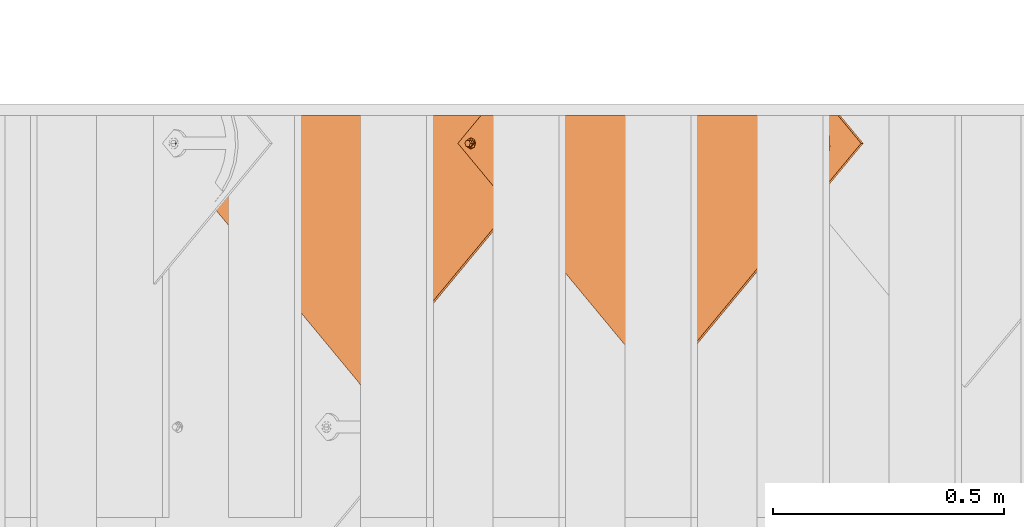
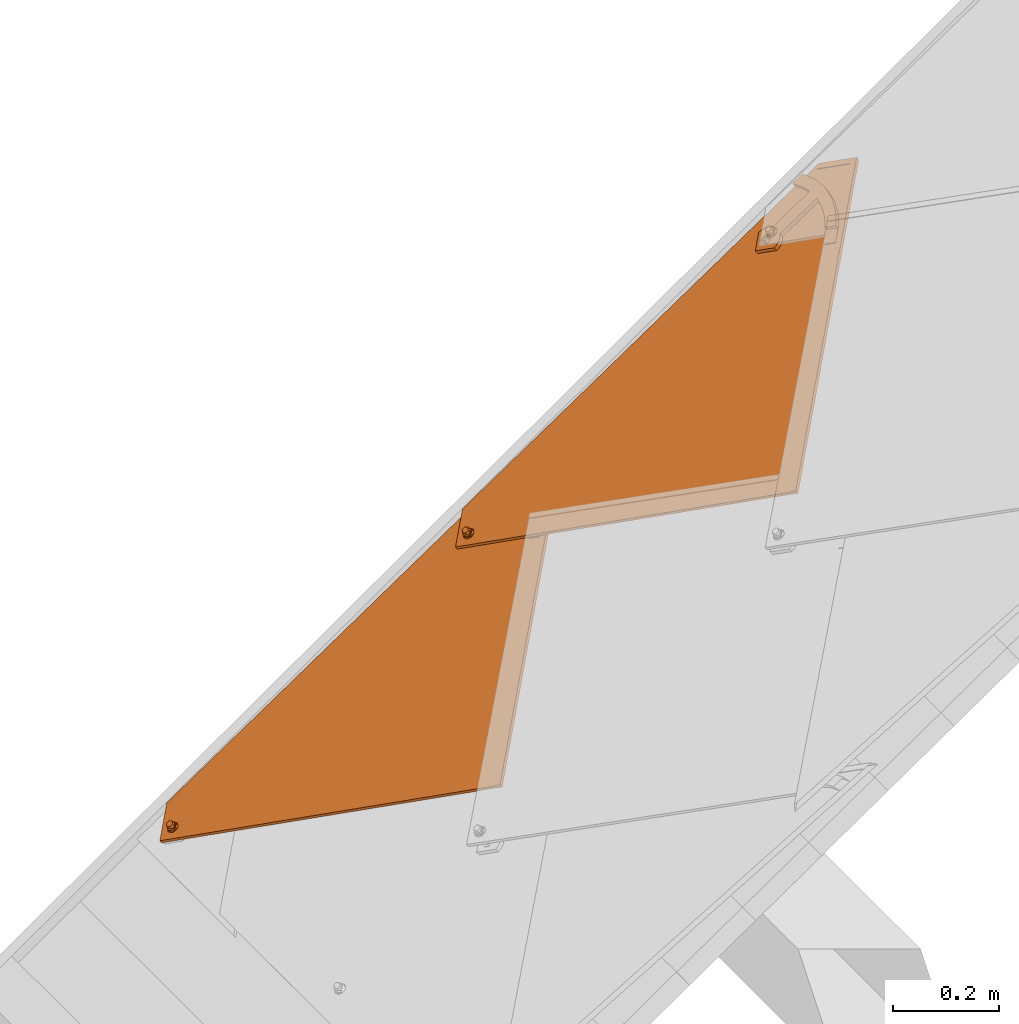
# One storey, part 83 of 133: 2 proxies.
"""IFC2X3 building model written with IfcOpenShell, lengths in millimetres."""

from ifc_helpers import new_model, entity, si_unit, converted_unit, derived_unit, direction, frame, origin, place, context, subcontext, project, spatial, faceted_brep, source, transform, mapped, material, material_list, type_object, type_shapes, element, save


model = new_model("IFC2X3")

# Units and contexts
model_context = context("Model", 3, precision=0.01, world=origin(), true_north=direction((6.12303176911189e-17, 1.0)))
body_context = subcontext(model_context, "Body", "Model", "MODEL_VIEW")
ifc_project = project(units=[si_unit("LENGTHUNIT", "METRE", prefix="MILLI"), si_unit("AREAUNIT", "SQUARE_METRE"), si_unit("VOLUMEUNIT", "CUBIC_METRE"), converted_unit("PLANEANGLEUNIT", "DEGREE", entity("IfcRatioMeasure", 0.0174532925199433), si_unit("PLANEANGLEUNIT", "RADIAN"), dimensions=[0, 0, 0, 0, 0, 0, 0]), si_unit("MASSUNIT", "GRAM", prefix="KILO"), derived_unit("MASSDENSITYUNIT", [(si_unit("MASSUNIT", "GRAM", prefix="KILO"), 1), (si_unit("LENGTHUNIT", "METRE"), -3)]), si_unit("TIMEUNIT", "SECOND"), si_unit("FREQUENCYUNIT", "HERTZ"), si_unit("THERMODYNAMICTEMPERATUREUNIT", "DEGREE_CELSIUS"), derived_unit("THERMALTRANSMITTANCEUNIT", [(si_unit("MASSUNIT", "GRAM", prefix="KILO"), 1), (si_unit("THERMODYNAMICTEMPERATUREUNIT", "KELVIN"), -1), (si_unit("TIMEUNIT", "SECOND"), -3)]), derived_unit("VOLUMETRICFLOWRATEUNIT", [(si_unit("LENGTHUNIT", "METRE"), 3), (si_unit("TIMEUNIT", "SECOND"), -1)]), si_unit("ELECTRICCURRENTUNIT", "AMPERE"), si_unit("ELECTRICVOLTAGEUNIT", "VOLT"), si_unit("POWERUNIT", "WATT"), si_unit("FORCEUNIT", "NEWTON", prefix="KILO"), si_unit("ILLUMINANCEUNIT", "LUX"), si_unit("LUMINOUSFLUXUNIT", "LUMEN"), si_unit("LUMINOUSINTENSITYUNIT", "CANDELA"), derived_unit("USERDEFINED", [(si_unit("MASSUNIT", "GRAM", prefix="KILO"), -1), (si_unit("LENGTHUNIT", "METRE"), -2), (si_unit("TIMEUNIT", "SECOND"), 3), (si_unit("LUMINOUSFLUXUNIT", "LUMEN"), 1)]), derived_unit("LINEARVELOCITYUNIT", [(si_unit("LENGTHUNIT", "METRE"), 1), (si_unit("TIMEUNIT", "SECOND"), -1)]), si_unit("PRESSUREUNIT", "PASCAL"), derived_unit("USERDEFINED", [(si_unit("LENGTHUNIT", "METRE"), -2), (si_unit("MASSUNIT", "GRAM", prefix="KILO"), 1), (si_unit("TIMEUNIT", "SECOND"), -2)])], contexts=[model_context])

# Site, building, storey
site_placement = place(None, origin())
site = spatial("IfcSite", under=ifc_project, at=site_placement, Name="Default", CompositionType="ELEMENT")
building_placement = place(site_placement, origin())
building = spatial("IfcBuilding", under=site, at=building_placement, CompositionType="ELEMENT")
storey_placement = place(building_placement, origin())
storey = spatial("IfcBuildingStorey", under=building, at=storey_placement, Name="Level 1", CompositionType="ELEMENT", Elevation=0.0)

# Proxies
ifc_material_1 = material(Name="Rubber - Sunstyle - Black")
ifc_material_2 = material(Name="Glass - Sunstyle - Tainted Black")
ifc_material_list_1 = material_list([ifc_material_1, ifc_material_2])
ifc_material_list_2 = material_list([ifc_material_1, ifc_material_2])
building_element_proxy_type = type_object("IfcBuildingElementProxyType", Name="Shingle Left - Black", PredefinedType="NOTDEFINED", material=ifc_material_list_2)
shared_shape = source(origin(), body_context, "Body", "Brep", [
    faceted_brep([(0.0, -484.792260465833, 4.00636906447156), (-5.77420283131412, -488.125530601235, 4.06219304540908), (-5.77420283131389, -487.757221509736, 26.0540623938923), (0.0, -484.423951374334, 25.9982384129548), (-5.77420283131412, -494.792070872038, 4.17384100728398), (-5.7742028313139, -494.42376178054, 26.1657103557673), (0.0, -498.12534100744, 4.22966498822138), (0.0, -497.757031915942, 26.2215343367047), (5.77420283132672, -494.792070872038, 4.17384100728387), (5.77420283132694, -494.42376178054, 26.1657103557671), (5.77420283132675, -488.125530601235, 4.06219304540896), (5.77420283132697, -487.757221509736, 26.0540623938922), (-8.60370416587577, -499.692989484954, 26.2539568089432), (0.0, -503.256260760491, 26.3136327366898), (-12.1674751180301, -491.090491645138, 26.1098863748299), (-8.60370416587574, -482.487993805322, 25.9658159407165), (0.0, -478.924722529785, 25.9061400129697), (8.60370416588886, -482.487993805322, 25.9658159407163), (12.1674751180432, -491.090491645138, 26.1098863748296), (8.60370416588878, -499.692989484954, 26.253956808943), (-11.324244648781, -488.795414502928, 28.4227283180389), (-9.75647455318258, -491.019476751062, 30.3502110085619), (0.0, -483.706401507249, 30.9829114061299), (0.0, -482.465903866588, 30.4025647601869), (0.0, -480.308353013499, 29.3931896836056), (0.0, -502.700216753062, 27.5886907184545), (0.0, -501.756640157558, 29.7523951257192), (0.0, -498.307264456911, 31.2274395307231), (0.0, -479.437758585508, 27.1991024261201), (-6.32324569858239, -494.657048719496, 31.1663074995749), (-6.32324569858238, -487.356617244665, 31.0440434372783), (11.3242446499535, -493.306834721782, 28.498283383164), (9.84888015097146, -492.093883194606, 30.2713428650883), (6.32324569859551, -487.356617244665, 31.0440434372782), (6.32324569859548, -494.657048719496, 31.1663074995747), (-6.32324569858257, -494.523020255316, 39.1691956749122), (0.0, -498.173235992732, 39.2303277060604), (0.0, -490.8728045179, 39.1080636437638), (-6.32324569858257, -487.222588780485, 39.0469316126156), (6.32324569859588, -494.523020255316, 39.1691956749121), (6.32324569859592, -487.222588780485, 39.0469316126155), (0.0, -483.572373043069, 38.9857995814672), (0.0, -491.458800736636, 4.11801702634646)], [[[0, 1, 2, 3]], [[1, 4, 5, 2]], [[4, 6, 7, 5]], [[6, 8, 9, 7]], [[8, 10, 11, 9]], [[10, 0, 3, 11]], [[12, 7, 13]], [[7, 12, 5]], [[14, 5, 12]], [[5, 14, 2]], [[15, 2, 14]], [[3, 2, 15]], [[15, 16, 3]], [[16, 17, 3]], [[11, 3, 17]], [[11, 17, 18]], [[9, 11, 18]], [[18, 19, 9]], [[7, 9, 19]], [[19, 13, 7]], [[20, 14, 12]], [[21, 22, 23, 24]], [[24, 20, 21]], [[25, 20, 12]], [[26, 27, 21]], [[15, 14, 20]], [[12, 13, 25]], [[20, 28, 15]], [[28, 20, 24]], [[21, 27, 29]], [[21, 29, 30]], [[26, 21, 20]], [[20, 25, 26]], [[15, 28, 16]], [[21, 30, 22]], [[31, 18, 17]], [[28, 31, 17]], [[32, 27, 26]], [[26, 31, 32]], [[26, 25, 31]], [[25, 19, 31]], [[17, 16, 28]], [[31, 19, 18]], [[24, 31, 28]], [[33, 34, 32]], [[23, 22, 33]], [[24, 32, 31]], [[27, 32, 34]], [[32, 23, 33]], [[19, 25, 13]], [[32, 24, 23]], [[35, 36, 37]], [[37, 38, 35]], [[36, 39, 37]], [[40, 37, 39]], [[37, 40, 41]], [[37, 41, 38]], [[42, 6, 4]], [[4, 1, 42]], [[1, 0, 42]], [[42, 8, 6]], [[0, 10, 42]], [[8, 42, 10]], [[22, 30, 38, 41]], [[30, 29, 35, 38]], [[29, 27, 36, 35]], [[27, 34, 39, 36]], [[34, 33, 40, 39]], [[33, 22, 41, 40]]]),
    faceted_brep([(0.0, 284.339364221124, 20.2838091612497), (0.0, 288.838732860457, 20.2084559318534), (-8.60370416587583, 287.902635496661, 20.224133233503), (8.60370416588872, 287.902635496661, 20.2241332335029), (6.64022859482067, 292.671933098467, 20.1442593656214), (12.1674751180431, 296.505133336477, 20.0800627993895), (6.64022859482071, 300.338333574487, 20.0158662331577), (8.6037041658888, 305.107631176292, 19.9359923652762), (0.0, 304.171533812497, 19.9516696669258), (0.0, 308.670902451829, 19.8763164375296), (-8.60370416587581, 305.107631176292, 19.9359923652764), (-6.64022859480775, 300.338333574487, 20.0158662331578), (-12.1674751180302, 296.505133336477, 20.0800627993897), (-6.64022859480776, 292.671933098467, 20.1442593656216), (-6.64022823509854, 300.070410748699, 4.01810959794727), (0.0, 303.90361077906, 3.95391303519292), (-6.64022823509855, 292.404010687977, 4.14650272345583), (0.0, 288.570810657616, 4.21069928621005), (6.64022823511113, 292.404010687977, 4.1465027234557), (6.64022823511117, 300.070410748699, 4.01810959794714), (-8.603704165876, 287.634712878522, 4.22637659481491), (0.0, 284.071441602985, 4.28605252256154), (-12.1674751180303, 296.237210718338, 4.08230616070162), (-8.60370416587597, 304.839708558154, 3.93823572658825), (0.0, 308.402979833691, 3.87855979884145), (8.60370416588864, 304.839708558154, 3.93823572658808), (12.1674751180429, 296.237210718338, 4.08230616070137), (8.60370416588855, 287.634712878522, 4.22637659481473)], [[[0, 1, 2]], [[1, 0, 3]], [[3, 4, 1]], [[4, 3, 5]], [[6, 4, 5]], [[5, 7, 6]], [[7, 8, 6]], [[8, 7, 9]], [[8, 9, 10]], [[10, 11, 8]], [[12, 11, 10]], [[2, 13, 12]], [[12, 13, 11]], [[13, 2, 1]], [[8, 11, 14, 15]], [[11, 13, 16, 14]], [[13, 1, 17, 16]], [[1, 4, 18, 17]], [[4, 6, 19, 18]], [[6, 8, 15, 19]], [[20, 17, 21]], [[17, 20, 16]], [[22, 16, 20]], [[14, 16, 22]], [[23, 14, 22]], [[15, 14, 23]], [[23, 24, 15]], [[24, 25, 15]], [[19, 15, 25]], [[19, 25, 26]], [[26, 18, 19]], [[26, 27, 18]], [[17, 18, 27]], [[27, 21, 17]], [[24, 23, 10, 9]], [[10, 23, 22, 12]], [[20, 21, 0, 2]], [[20, 2, 12, 22]], [[21, 27, 3, 0]], [[3, 27, 26, 5]], [[25, 24, 9, 7]], [[25, 7, 5, 26]]]),
    faceted_brep([(518.309865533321, -8.21171787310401, 16.4411500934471), (526.794551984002, 0.272968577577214, 16.299052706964), (526.794551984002, 0.298086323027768, 17.798842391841), (518.309865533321, -8.18660012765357, 17.9409397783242), (0.0, 509.952813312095, 7.76318349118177), (-51.6190674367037, 458.348219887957, 8.62743202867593), (-60.1037538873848, 466.832906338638, 8.48533464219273), (0.0, 526.919807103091, 7.47902856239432), (0.0, 526.944924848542, 8.97881824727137), (-60.1037538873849, 466.858024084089, 9.98512432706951), (-51.6190674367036, 458.373337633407, 10.1272217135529), (0.0, 509.977931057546, 9.26297317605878)], [[[0, 1, 2, 3]], [[1, 0, 4, 5, 6, 7]], [[2, 1, 7, 8]], [[3, 2, 8, 9, 10, 11]], [[0, 3, 11, 4]], [[5, 10, 9, 6]], [[8, 7, 6, 9]], [[4, 11, 10, 5]]]),
    faceted_brep([(3.08877637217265, 308.328619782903, 11.1398870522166), (0.0, 526.91980710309, 7.47902856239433), (-60.1037538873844, 466.832906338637, 8.48533464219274), (5.98294783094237, 307.129982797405, 11.1599612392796), (-0.0170521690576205, 308.737452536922, 11.133040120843), (8.46822920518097, 305.223226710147, 11.1918946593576), (10.3752526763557, 302.738293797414, 11.2335111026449), (11.5740577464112, 299.844528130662, 11.2819744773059), (526.794551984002, 0.272968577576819, 16.299052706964), (11.9829478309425, 296.739135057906, 11.3339820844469), (11.5740577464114, 293.63374198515, 11.3859896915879), (10.3752526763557, 290.739976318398, 11.4344530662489), (8.46822920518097, 288.255043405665, 11.4760695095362), (5.9829478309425, 286.348287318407, 11.5080029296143), (3.08877637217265, 285.149650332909, 11.5280771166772), (2.03352718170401, -483.329519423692, 24.3981910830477), (-60.1037538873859, -466.286969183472, 24.112770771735), (-0.0170521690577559, 284.74081757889, 11.5349240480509), (-3.12288071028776, 285.149650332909, 11.5280771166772), (-6.01705216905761, 286.348287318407, 11.5080029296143), (-8.50233354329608, 288.255043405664, 11.4760695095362), (-10.409357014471, 290.739976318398, 11.4344530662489), (-11.6081620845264, 293.63374198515, 11.3859896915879), (-12.0170521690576, 296.739135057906, 11.3339820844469), (-11.6081620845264, 299.844528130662, 11.2819744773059), (-10.4093570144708, 302.738293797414, 11.2335111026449), (-8.50233354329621, 305.223226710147, 11.1918946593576), (-6.01705216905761, 307.129982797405, 11.1599612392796), (-3.12288071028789, 308.328619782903, 11.1398870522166), (-0.0370251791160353, -483.056964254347, 24.3936264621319), (-2.10757753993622, -483.329519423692, 24.3981910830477), (-4.03702517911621, -484.128610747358, 24.411573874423), (-5.69387942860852, -485.399781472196, 24.4328628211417), (-6.96522840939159, -487.056403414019, 24.4606071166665), (-7.76443178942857, -488.985580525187, 24.4929160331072), (-8.03702517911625, -491.055842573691, 24.5275877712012), (-7.76443178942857, -493.126104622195, 24.5622595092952), (-6.96522840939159, -495.055281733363, 24.5945684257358), (0.0, -526.373869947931, 25.1190768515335), (-5.69387942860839, -496.711903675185, 24.6223127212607), (-4.03702517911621, -497.983074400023, 24.6436016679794), (-2.10757753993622, -498.782165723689, 24.6569844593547), (-0.0370251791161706, -499.054720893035, 24.6615490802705), (2.03352718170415, -498.782165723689, 24.6569844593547), (3.96297482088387, -497.983074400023, 24.6436016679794), (5.61982907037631, -496.711903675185, 24.6223127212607), (6.89117805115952, -495.055281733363, 24.5945684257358), (7.6903814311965, -493.126104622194, 24.5622595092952), (3.96297482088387, -484.128610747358, 24.411573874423), (5.61982907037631, -485.399781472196, 24.4328628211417), (6.89117805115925, -487.056403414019, 24.4606071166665), (7.6903814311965, -488.985580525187, 24.4929160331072), (7.96297482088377, -491.055842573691, 24.5275877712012), (-60.1037538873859, -466.412557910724, 16.6138223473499), (-6.96522840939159, -487.181992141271, 16.9616586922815), (-7.7644317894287, -489.111169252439, 16.9939676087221), (-5.69387942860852, -485.525370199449, 16.9339143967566), (-8.03702517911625, -491.181431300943, 17.0286393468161), (-7.76443178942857, -493.251693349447, 17.0633110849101), (-6.96522840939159, -495.180870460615, 17.0956200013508), (0.0, -526.499458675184, 17.6201284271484), (-4.03702517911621, -484.254199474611, 16.9126254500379), (-2.10757753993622, -483.455108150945, 16.8992426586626), (-0.0370251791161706, -483.182552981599, 16.8946780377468), (2.03352718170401, -483.455108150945, 16.8992426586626), (3.08877637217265, 285.024061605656, 4.02912869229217), (-0.0170521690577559, 284.615228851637, 4.03597562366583), (-3.12288071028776, 285.024061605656, 4.02912869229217), (-6.01705216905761, 286.222698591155, 4.00905450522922), (-8.50233354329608, 288.129454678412, 3.97712108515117), (-10.409357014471, 290.614387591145, 3.93550464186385), (-11.6081620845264, 293.508153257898, 3.88704126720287), (-60.1037538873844, 466.707317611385, 0.986386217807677), (-12.0170521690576, 296.613546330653, 3.83503366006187), (-11.6081620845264, 299.718939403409, 3.78302605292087), (-10.4093570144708, 302.612705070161, 3.73456267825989), (-8.50233354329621, 305.097637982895, 3.69294623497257), (-6.01705216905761, 307.004394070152, 3.66101281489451), (-3.12288071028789, 308.203031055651, 3.64093862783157), (-0.0170521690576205, 308.61186380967, 3.63409169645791), (3.08877637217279, 308.203031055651, 3.64093862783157), (0.0, 526.794218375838, -0.0199198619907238), (5.98294783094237, 307.004394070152, 3.66101281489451), (8.46822920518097, 305.097637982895, 3.69294623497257), (10.3752526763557, 302.612705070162, 3.73456267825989), (11.5740577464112, 299.718939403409, 3.78302605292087), (526.794551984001, 0.147379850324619, 8.8001042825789), (3.96297482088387, -484.254199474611, 16.9126254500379), (5.61982907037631, -485.525370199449, 16.9339143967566), (7.6903814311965, -493.251693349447, 17.0633110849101), (7.96297482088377, -491.181431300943, 17.0286393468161), (7.6903814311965, -489.111169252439, 16.9939676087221), (6.89117805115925, -487.181992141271, 16.9616586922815), (5.9829478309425, 286.222698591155, 4.00905450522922), (8.46822920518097, 288.129454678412, 3.97712108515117), (11.9829478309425, 296.613546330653, 3.83503366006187), (11.5740577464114, 293.508153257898, 3.88704126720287), (10.3752526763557, 290.614387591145, 3.93550464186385), (-5.69387942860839, -496.837492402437, 17.1233642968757), (-4.03702517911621, -498.108663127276, 17.1446532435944), (-2.10757753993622, -498.907754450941, 17.1580360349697), (-0.0370251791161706, -499.180309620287, 17.1626006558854), (2.03352718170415, -498.907754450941, 17.1580360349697), (3.96297482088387, -498.108663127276, 17.1446532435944), (5.61982907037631, -496.837492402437, 17.1233642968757), (6.89117805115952, -495.180870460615, 17.0956200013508)], [[[0, 1, 2]], [[0, 3, 1]], [[4, 0, 2]], [[1, 3, 5]], [[6, 1, 5]], [[7, 1, 6]], [[7, 8, 1]], [[9, 8, 7]], [[8, 9, 10]], [[8, 10, 11]], [[11, 12, 8]], [[12, 13, 8]], [[13, 14, 8]], [[14, 15, 8]], [[14, 16, 15]], [[16, 14, 17]], [[16, 17, 18]], [[16, 18, 19]], [[20, 16, 19]], [[20, 21, 16]], [[21, 22, 16]], [[23, 2, 22]], [[2, 16, 22]], [[23, 24, 2]], [[25, 2, 24]], [[25, 26, 2]], [[26, 27, 2]], [[28, 2, 27]], [[4, 2, 28]], [[16, 29, 15]], [[29, 16, 30]], [[30, 16, 31]], [[16, 32, 31]], [[32, 16, 33]], [[33, 16, 34]], [[35, 34, 16]], [[35, 16, 36]], [[37, 36, 16]], [[16, 38, 37]], [[39, 37, 38]], [[40, 39, 38]], [[41, 40, 38]], [[38, 42, 41]], [[42, 38, 43]], [[44, 43, 38]], [[44, 38, 45]], [[46, 45, 38]], [[47, 46, 38]], [[47, 38, 8]], [[48, 8, 15]], [[48, 49, 8]], [[50, 8, 49]], [[51, 8, 50]], [[52, 47, 8]], [[52, 8, 51]], [[53, 54, 55]], [[54, 53, 56]], [[53, 55, 57]], [[57, 58, 53]], [[58, 59, 53]], [[53, 59, 60]], [[61, 56, 53]], [[62, 61, 53]], [[62, 53, 63]], [[64, 63, 53]], [[53, 65, 64]], [[65, 53, 66]], [[66, 53, 67]], [[67, 53, 68]], [[69, 68, 53]], [[70, 69, 53]], [[71, 70, 53]], [[71, 53, 72]], [[73, 71, 72]], [[74, 73, 72]], [[75, 74, 72]], [[76, 75, 72]], [[72, 77, 76]], [[78, 77, 72]], [[79, 78, 72]], [[79, 72, 80]], [[80, 72, 81]], [[82, 80, 81]], [[81, 83, 82]], [[83, 81, 84]], [[84, 81, 85]], [[86, 85, 81]], [[64, 86, 87]], [[88, 87, 86]], [[60, 89, 86]], [[90, 86, 89]], [[90, 91, 86]], [[91, 92, 86]], [[88, 86, 92]], [[65, 86, 64]], [[65, 93, 86]], [[93, 94, 86]], [[86, 95, 85]], [[95, 86, 96]], [[97, 96, 86]], [[97, 86, 94]], [[98, 60, 59]], [[98, 99, 60]], [[99, 100, 60]], [[101, 60, 100]], [[60, 101, 102]], [[60, 102, 103]], [[103, 104, 60]], [[104, 105, 60]], [[105, 89, 60]], [[2, 1, 81, 72]], [[38, 16, 53, 60]], [[8, 38, 60, 86]], [[1, 8, 86, 81]], [[35, 57, 55, 34]], [[34, 55, 54, 33]], [[31, 32, 56, 61]], [[56, 32, 33, 54]], [[30, 31, 61, 62]], [[30, 62, 63, 29]], [[29, 63, 64, 15]], [[15, 64, 87, 48]], [[50, 49, 88, 92]], [[88, 49, 48, 87]], [[51, 50, 92, 91]], [[51, 91, 90, 52]], [[52, 90, 89, 47]], [[47, 89, 105, 46]], [[44, 45, 104, 103]], [[104, 45, 46, 105]], [[43, 44, 103, 102]], [[43, 102, 101, 42]], [[42, 101, 100, 41]], [[41, 100, 99, 40]], [[37, 39, 98, 59]], [[98, 39, 40, 99]], [[36, 37, 59, 58]], [[36, 58, 57, 35]], [[23, 73, 74, 24]], [[24, 74, 75, 25]], [[27, 26, 76, 77]], [[76, 26, 25, 75]], [[28, 27, 77, 78]], [[28, 78, 79, 4]], [[4, 79, 80, 0]], [[0, 80, 82, 3]], [[6, 5, 83, 84]], [[83, 5, 3, 82]], [[7, 6, 84, 85]], [[7, 85, 95, 9]], [[9, 95, 96, 10]], [[10, 96, 97, 11]], [[13, 12, 94, 93]], [[94, 12, 11, 97]], [[14, 13, 93, 65]], [[14, 65, 66, 17]], [[17, 66, 67, 18]], [[18, 67, 68, 19]], [[21, 20, 69, 70]], [[69, 20, 19, 68]], [[22, 21, 70, 71]], [[22, 71, 73, 23]], [[16, 2, 72, 53]]]),
    faceted_brep([(-60.2957264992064, 433.002673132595, 19.0533091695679), (-60.2957264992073, 406.276440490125, 19.5009070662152), (-37.4519584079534, 414.732964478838, 19.3592813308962), (-27.2461400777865, 442.315205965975, 18.8973474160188), (-13.4919726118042, 419.124350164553, 19.2857365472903), (7.02526451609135, 444.434715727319, 18.8618509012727), (13.1080273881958, 419.12435016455, 19.2857365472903), (13.1080273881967, 322.716549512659, 20.9003273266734), (-13.4919726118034, 322.716549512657, 20.9003273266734), (-0.191972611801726, 308.510747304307, 21.1382391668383), (-3.29780115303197, 308.101914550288, 21.145086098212), (-6.19197261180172, 306.90327756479, 21.1651602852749), (-18.8960787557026, 319.178501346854, 20.9595808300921), (-8.67725398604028, 304.996521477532, 21.197093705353), (-23.3966230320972, 314.545495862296, 21.0371721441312), (-10.584277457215, 302.511588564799, 21.2387101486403), (-26.776192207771, 309.041345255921, 21.1293529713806), (-11.7830825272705, 299.617822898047, 21.2871735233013), (-28.8715253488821, 302.931945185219, 21.231670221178), (-12.1919726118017, 296.512429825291, 21.3391811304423), (-29.5814006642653, 296.512429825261, 21.3391811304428), (-11.7830825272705, 293.407036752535, 21.3911887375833), (-10.5842774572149, 290.513271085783, 21.4396521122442), (-8.67725398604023, 288.028338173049, 21.4812685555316), (-0.191972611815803, 267.127122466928, 21.8313119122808), (-6.19197261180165, 286.121582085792, 21.5132019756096), (-3.2978011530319, 284.922945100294, 21.5332761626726), (-0.19197261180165, 284.514112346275, 21.5401230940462), (2.9138559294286, 284.922945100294, 21.5332761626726), (5.80802738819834, 286.121582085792, 21.5132019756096), (8.29330876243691, 288.028338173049, 21.4812685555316), (29.197455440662, 296.512429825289, 21.3391811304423), (10.2003322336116, 290.513271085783, 21.4396521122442), (11.3991373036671, 293.407036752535, 21.3911887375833), (11.8080273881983, 296.512429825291, 21.3391811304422), (28.4875801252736, 302.931945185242, 21.2316702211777), (11.3991373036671, 299.617822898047, 21.2871735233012), (26.3922469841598, 309.041345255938, 21.1293529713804), (10.2003322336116, 302.511588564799, 21.2387101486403), (23.0126778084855, 314.545495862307, 21.037172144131), (8.29330876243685, 304.996521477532, 21.197093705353), (18.5121335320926, 319.178501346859, 20.959580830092), (5.80802738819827, 306.90327756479, 21.1651602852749), (2.91385592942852, 308.101914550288, 21.145086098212), (40.9707248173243, 439.265481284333, 18.9484227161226), (38.5777701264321, 414.309469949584, 19.3663738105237), (73.0571986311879, 427.0409551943, 19.1531531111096), (62.7323605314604, 404.905836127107, 19.523861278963), (84.7524233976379, 391.232440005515, 19.7528566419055), (101.835599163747, 408.313220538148, 19.4667960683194), (-10.5842774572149, 290.345819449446, 11.4410542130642), (-29.5814006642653, 296.344978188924, 11.3405832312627), (-11.7830825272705, 293.239585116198, 11.3925908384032), (-8.67725398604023, 287.860886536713, 11.4826706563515), (-0.191972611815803, 266.959670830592, 11.8327140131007), (-6.19197261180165, 285.954130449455, 11.5146040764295), (-3.2978011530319, 284.755493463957, 11.5346782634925), (-0.19197261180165, 284.346660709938, 11.5415251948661), (2.9138559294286, 284.755493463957, 11.5346782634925), (5.80802738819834, 285.954130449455, 11.5146040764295), (8.29330876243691, 287.860886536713, 11.4826706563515), (29.197455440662, 296.344978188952, 11.3405832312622), (10.2003322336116, 290.345819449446, 11.4410542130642), (11.3991373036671, 293.239585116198, 11.3925908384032), (11.8080273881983, 296.344978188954, 11.3405832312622), (28.4875801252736, 302.764493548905, 11.2330723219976), (11.3991373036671, 299.45037126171, 11.2885756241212), (26.3922469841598, 308.873893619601, 11.1307550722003), (10.2003322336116, 302.344136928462, 11.2401122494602), (23.0126778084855, 314.378044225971, 11.038574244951), (8.29330876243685, 304.829069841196, 11.1984958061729), (18.5121335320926, 319.011049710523, 10.960982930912), (5.80802738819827, 306.735825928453, 11.1665623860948), (13.1080273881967, 322.549097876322, 10.9017294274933), (2.91385592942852, 307.934462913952, 11.1464881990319), (-0.191972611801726, 308.34329566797, 11.1396412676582), (-13.4919726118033, 322.54909787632, 10.9017294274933), (-3.29780115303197, 307.934462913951, 11.1464881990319), (-6.19197261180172, 306.735825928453, 11.1665623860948), (-18.8960787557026, 319.011049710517, 10.9609829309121), (-8.67725398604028, 304.829069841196, 11.1984958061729), (-23.3966230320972, 314.37804422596, 11.0385742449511), (-10.584277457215, 302.344136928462, 11.2401122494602), (-26.776192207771, 308.873893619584, 11.1307550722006), (-11.7830825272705, 299.45037126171, 11.2885756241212), (-28.8715253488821, 302.764493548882, 11.233072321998), (-12.1919726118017, 296.344978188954, 11.3405832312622), (-13.4919726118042, 418.956898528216, 9.28713864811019), (13.1080273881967, 418.956898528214, 9.28713864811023), (7.02526451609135, 444.267264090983, 8.86325300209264), (-27.2461400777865, 442.147754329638, 8.89874951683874), (-37.4519584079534, 414.565512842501, 9.36068343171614), (-60.2957264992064, 432.835221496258, 9.05471127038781), (-60.2957264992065, 406.108988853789, 9.5023091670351), (40.9707248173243, 439.098029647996, 8.94982481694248), (38.5777701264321, 414.142018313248, 9.36777591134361), (73.0571986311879, 426.873503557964, 9.15455521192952), (62.7323605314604, 404.738384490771, 9.5252633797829), (84.9699227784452, 391.282457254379, 9.75061668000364), (101.363550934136, 407.672574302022, 9.47612300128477), (101.835599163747, 408.145768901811, 9.46819816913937), (107.666988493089, 402.274283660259, 9.56653093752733), (113.684870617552, 396.559480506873, 9.66223967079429), (108.027097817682, 368.228515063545, 10.1367128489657), (125.024248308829, 385.223282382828, 9.85209278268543), (84.7524233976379, 391.064988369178, 9.75425874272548), (125.024248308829, 385.265145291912, 12.3517422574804), (113.684870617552, 396.601343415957, 12.1618891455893), (107.666988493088, 402.316146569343, 12.0661804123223), (101.362944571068, 407.715043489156, 11.975762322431), (84.9693798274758, 391.324863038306, 12.2502570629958), (108.027097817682, 368.270377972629, 12.6363623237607)], [[[0, 1, 2]], [[0, 2, 3]], [[2, 4, 3]], [[3, 4, 5]], [[5, 4, 6]], [[7, 6, 4]], [[7, 4, 8]], [[9, 7, 8]], [[9, 8, 10]], [[10, 8, 11]], [[12, 11, 8]], [[11, 12, 13]], [[14, 13, 12]], [[13, 14, 15]], [[15, 14, 16]], [[17, 15, 16]], [[18, 17, 16]], [[18, 19, 17]], [[19, 18, 20]], [[20, 21, 19]], [[20, 22, 21]], [[22, 20, 23]], [[23, 20, 24]], [[24, 25, 23]], [[26, 25, 24]], [[24, 27, 26]], [[28, 27, 24]], [[28, 24, 29]], [[30, 29, 24]], [[30, 24, 31]], [[31, 32, 30]], [[33, 32, 31]], [[31, 34, 33]], [[35, 34, 31]], [[34, 35, 36]], [[36, 35, 37]], [[36, 37, 38]], [[38, 37, 39]], [[39, 40, 38]], [[39, 41, 40]], [[7, 42, 41]], [[40, 41, 42]], [[42, 7, 43]], [[43, 7, 9]], [[44, 5, 6]], [[44, 6, 45]], [[45, 46, 44]], [[46, 45, 47]], [[47, 48, 46]], [[49, 46, 48]], [[50, 51, 52]], [[51, 50, 53]], [[54, 51, 53]], [[53, 55, 54]], [[56, 54, 55]], [[57, 54, 56]], [[57, 58, 54]], [[58, 59, 54]], [[60, 54, 59]], [[60, 61, 54]], [[60, 62, 61]], [[62, 63, 61]], [[63, 64, 61]], [[64, 65, 61]], [[65, 64, 66]], [[66, 67, 65]], [[68, 67, 66]], [[67, 68, 69]], [[69, 68, 70]], [[71, 69, 70]], [[71, 70, 72]], [[72, 73, 71]], [[72, 74, 73]], [[75, 73, 74]], [[76, 73, 75]], [[77, 76, 75]], [[76, 77, 78]], [[79, 76, 78]], [[78, 80, 79]], [[81, 79, 80]], [[81, 80, 82]], [[81, 82, 83]], [[82, 84, 83]], [[84, 85, 83]], [[86, 85, 84]], [[52, 51, 86]], [[85, 86, 51]], [[73, 76, 87]], [[88, 73, 87]], [[88, 87, 89]], [[90, 89, 87]], [[87, 91, 90]], [[91, 92, 90]], [[93, 92, 91]], [[88, 89, 94]], [[88, 94, 95]], [[96, 95, 94]], [[96, 97, 95]], [[98, 97, 96]], [[96, 99, 98]], [[96, 100, 99]], [[98, 99, 101]], [[102, 98, 101]], [[98, 102, 103]], [[104, 103, 102]], [[105, 97, 98]], [[8, 4, 87, 76]], [[12, 8, 76, 79]], [[14, 12, 79, 81]], [[81, 83, 16, 14]], [[18, 16, 83, 85]], [[20, 18, 85, 51]], [[24, 20, 51, 54]], [[31, 24, 54, 61]], [[35, 31, 61, 65]], [[37, 35, 65, 67]], [[67, 69, 39, 37]], [[41, 39, 69, 71]], [[7, 41, 71, 73]], [[6, 7, 73, 88]], [[46, 49, 100, 96]], [[44, 46, 96, 94]], [[94, 89, 5, 44]], [[3, 5, 89, 90]], [[3, 90, 92, 0]], [[19, 86, 84, 17]], [[17, 84, 82, 15]], [[11, 13, 80, 78]], [[82, 80, 13, 15]], [[10, 11, 78, 77]], [[75, 9, 10, 77]], [[43, 74, 72, 42]], [[42, 72, 70, 40]], [[36, 38, 68, 66]], [[70, 68, 38, 40]], [[34, 36, 66, 64]], [[43, 9, 75, 74]], [[34, 64, 63, 33]], [[33, 63, 62, 32]], [[29, 30, 60, 59]], [[62, 60, 30, 32]], [[28, 29, 59, 58]], [[57, 27, 28, 58]], [[26, 56, 55, 25]], [[25, 55, 53, 23]], [[21, 22, 50, 52]], [[53, 50, 22, 23]], [[19, 21, 52, 86]], [[26, 27, 57, 56]], [[106, 107, 108, 109, 110, 111]], [[107, 106, 104, 102]], [[106, 111, 103, 104]], [[107, 102, 101, 108]], [[101, 99, 109]], [[101, 109, 108]], [[111, 110, 98, 103]], [[48, 110, 109]], [[110, 48, 105]], [[49, 48, 109, 100]], [[105, 98, 110]], [[99, 100, 109]], [[93, 91, 2, 1]], [[87, 4, 2, 91]], [[88, 95, 45, 6]], [[95, 97, 47, 45]], [[97, 105, 48, 47]], [[1, 0, 92, 93]]]),
])
type_shapes(building_element_proxy_type, [shared_shape])
proxy_1_placement = place(storey_placement, frame((-1293.68695806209, 3865.09519417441, 1079.67431678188), z_axis=(-0.57357643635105, 0.0, 0.819152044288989), x_axis=(0.0, -1.0, 0.0)))
element("IfcBuildingElementProxy", 1, at=proxy_1_placement, inside=storey, type_object=building_element_proxy_type, material=ifc_material_list_1, Name="Roofing_Panels_SunStyle_Tile_Shingle-Left:Shingle Left - Black", ObjectType="Roofing_Panels_SunStyle_Tile_Shingle-Left:Shingle Left - Black", context=body_context, shape_type="MappedRepresentation", body=[
    mapped(shared_shape, transform((0.0, 0.0, 0.0), scale=1.0)),
])
ifc_material_list_3 = material_list([ifc_material_1, ifc_material_2])
proxy_2_placement = place(storey_placement, frame((-1936.72131282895, 3865.09519417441, 629.416814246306), z_axis=(-0.57357643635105, 0.0, 0.819152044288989), x_axis=(0.0, -1.0, 0.0)))
element("IfcBuildingElementProxy", 2, at=proxy_2_placement, inside=storey, type_object=building_element_proxy_type, material=ifc_material_list_3, Name="Roofing_Panels_SunStyle_Tile_Shingle-Left:Shingle Left - Black", ObjectType="Roofing_Panels_SunStyle_Tile_Shingle-Left:Shingle Left - Black", context=body_context, shape_type="MappedRepresentation", body=[
    mapped(shared_shape, transform((0.0, 0.0, 0.0), scale=1.0)),
])

save(model, "model.ifc")
